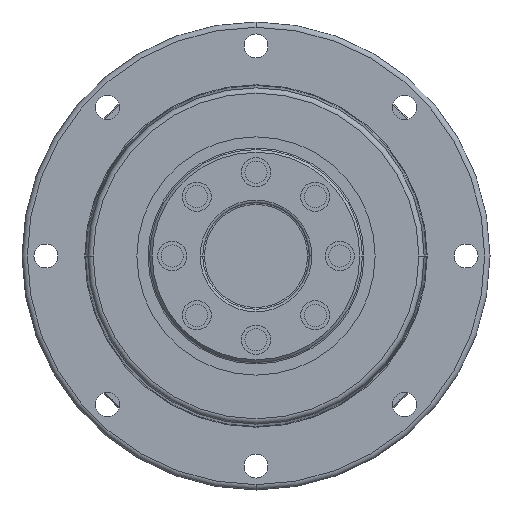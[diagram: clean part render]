
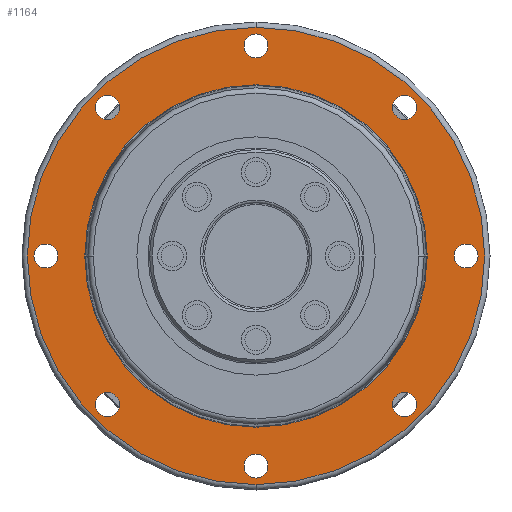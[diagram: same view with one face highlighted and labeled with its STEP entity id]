
A CAD part, left-side view. The second image highlights one B-rep face of the part: STEP entity #1164.
In plain terms, the highlighted planar face has unit normal (-1, 0, 0).
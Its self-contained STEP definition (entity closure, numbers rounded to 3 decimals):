
#248=CARTESIAN_POINT('',(15.5,39.5,0.));
#249=DIRECTION('',(-1.,0.,0.));
#250=DIRECTION('',(0.,0.,1.));
#251=AXIS2_PLACEMENT_3D('',#248,#249,#250);
#253=CARTESIAN_POINT('',(15.5,39.5,0.));
#254=DIRECTION('',(-1.,0.,0.));
#255=DIRECTION('',(0.,0.,-1.));
#256=AXIS2_PLACEMENT_3D('',#253,#254,#255);
#258=CARTESIAN_POINT('',(15.5,27.931,27.931));
#259=DIRECTION('',(-1.,0.,0.));
#260=DIRECTION('',(0.,-0.707,0.707));
#261=AXIS2_PLACEMENT_3D('',#258,#259,#260);
#263=CARTESIAN_POINT('',(15.5,27.931,27.931));
#264=DIRECTION('',(-1.,0.,0.));
#265=DIRECTION('',(0.,0.707,-0.707));
#266=AXIS2_PLACEMENT_3D('',#263,#264,#265);
#268=CARTESIAN_POINT('',(15.5,0.,39.5));
#269=DIRECTION('',(-1.,0.,0.));
#270=DIRECTION('',(0.,-1.,0.));
#271=AXIS2_PLACEMENT_3D('',#268,#269,#270);
#273=CARTESIAN_POINT('',(15.5,0.,39.5));
#274=DIRECTION('',(-1.,0.,0.));
#275=DIRECTION('',(0.,1.,0.));
#276=AXIS2_PLACEMENT_3D('',#273,#274,#275);
#278=CARTESIAN_POINT('',(15.5,-27.931,27.931));
#279=DIRECTION('',(-1.,0.,0.));
#280=DIRECTION('',(0.,-0.707,-0.707));
#281=AXIS2_PLACEMENT_3D('',#278,#279,#280);
#283=CARTESIAN_POINT('',(15.5,-27.931,27.931));
#284=DIRECTION('',(-1.,0.,0.));
#285=DIRECTION('',(0.,0.707,0.707));
#286=AXIS2_PLACEMENT_3D('',#283,#284,#285);
#288=CARTESIAN_POINT('',(15.5,-39.5,0.));
#289=DIRECTION('',(-1.,0.,0.));
#290=DIRECTION('',(0.,0.,-1.));
#291=AXIS2_PLACEMENT_3D('',#288,#289,#290);
#293=CARTESIAN_POINT('',(15.5,-39.5,0.));
#294=DIRECTION('',(-1.,0.,0.));
#295=DIRECTION('',(0.,0.,1.));
#296=AXIS2_PLACEMENT_3D('',#293,#294,#295);
#298=CARTESIAN_POINT('',(15.5,-27.931,-27.931));
#299=DIRECTION('',(-1.,0.,0.));
#300=DIRECTION('',(0.,0.707,-0.707));
#301=AXIS2_PLACEMENT_3D('',#298,#299,#300);
#303=CARTESIAN_POINT('',(15.5,-27.931,-27.931));
#304=DIRECTION('',(-1.,0.,0.));
#305=DIRECTION('',(0.,-0.707,0.707));
#306=AXIS2_PLACEMENT_3D('',#303,#304,#305);
#308=CARTESIAN_POINT('',(15.5,0.,-39.5));
#309=DIRECTION('',(-1.,0.,0.));
#310=DIRECTION('',(0.,1.,0.));
#311=AXIS2_PLACEMENT_3D('',#308,#309,#310);
#313=CARTESIAN_POINT('',(15.5,0.,-39.5));
#314=DIRECTION('',(-1.,0.,0.));
#315=DIRECTION('',(0.,-1.,0.));
#316=AXIS2_PLACEMENT_3D('',#313,#314,#315);
#318=CARTESIAN_POINT('',(15.5,27.931,-27.931));
#319=DIRECTION('',(-1.,0.,0.));
#320=DIRECTION('',(0.,0.707,0.707));
#321=AXIS2_PLACEMENT_3D('',#318,#319,#320);
#323=CARTESIAN_POINT('',(15.5,27.931,-27.931));
#324=DIRECTION('',(-1.,0.,0.));
#325=DIRECTION('',(0.,-0.707,-0.707));
#326=AXIS2_PLACEMENT_3D('',#323,#324,#325);
#328=CARTESIAN_POINT('',(15.5,0.,0.));
#329=DIRECTION('',(-1.,0.,0.));
#330=DIRECTION('',(0.,1.,0.));
#331=AXIS2_PLACEMENT_3D('',#328,#329,#330);
#333=CARTESIAN_POINT('',(15.5,0.,0.));
#334=DIRECTION('',(-1.,0.,0.));
#335=DIRECTION('',(0.,-1.,0.));
#336=AXIS2_PLACEMENT_3D('',#333,#334,#335);
#338=CARTESIAN_POINT('',(15.5,0.,0.));
#339=DIRECTION('',(-1.,0.,0.));
#340=DIRECTION('',(0.,0.,-1.));
#341=AXIS2_PLACEMENT_3D('',#338,#339,#340);
#343=CARTESIAN_POINT('',(15.5,0.,0.));
#344=DIRECTION('',(-1.,0.,0.));
#345=DIRECTION('',(0.,0.,1.));
#346=AXIS2_PLACEMENT_3D('',#343,#344,#345);
#684=CARTESIAN_POINT('',(15.5,39.5,2.25));
#685=CARTESIAN_POINT('',(15.5,39.5,-2.25));
#686=VERTEX_POINT('',#684);
#687=VERTEX_POINT('',#685);
#692=CARTESIAN_POINT('',(15.5,26.34,29.522));
#693=CARTESIAN_POINT('',(15.5,29.522,26.34));
#694=VERTEX_POINT('',#692);
#695=VERTEX_POINT('',#693);
#700=CARTESIAN_POINT('',(15.5,-2.25,39.5));
#701=CARTESIAN_POINT('',(15.5,2.25,39.5));
#702=VERTEX_POINT('',#700);
#703=VERTEX_POINT('',#701);
#708=CARTESIAN_POINT('',(15.5,-29.522,26.34));
#709=CARTESIAN_POINT('',(15.5,-26.34,29.522));
#710=VERTEX_POINT('',#708);
#711=VERTEX_POINT('',#709);
#716=CARTESIAN_POINT('',(15.5,-39.5,-2.25));
#717=CARTESIAN_POINT('',(15.5,-39.5,2.25));
#718=VERTEX_POINT('',#716);
#719=VERTEX_POINT('',#717);
#724=CARTESIAN_POINT('',(15.5,-26.34,-29.522));
#725=CARTESIAN_POINT('',(15.5,-29.522,-26.34));
#726=VERTEX_POINT('',#724);
#727=VERTEX_POINT('',#725);
#732=CARTESIAN_POINT('',(15.5,2.25,-39.5));
#733=CARTESIAN_POINT('',(15.5,-2.25,-39.5));
#734=VERTEX_POINT('',#732);
#735=VERTEX_POINT('',#733);
#740=CARTESIAN_POINT('',(15.5,29.522,-26.34));
#741=CARTESIAN_POINT('',(15.5,26.34,-29.522));
#742=VERTEX_POINT('',#740);
#743=VERTEX_POINT('',#741);
#764=CARTESIAN_POINT('',(15.5,32.2,0.));
#765=CARTESIAN_POINT('',(15.5,-32.2,0.));
#766=VERTEX_POINT('',#764);
#767=VERTEX_POINT('',#765);
#824=CARTESIAN_POINT('',(15.5,0.,-43.));
#825=CARTESIAN_POINT('',(15.5,0.,43.));
#826=VERTEX_POINT('',#824);
#827=VERTEX_POINT('',#825);
#1100=CARTESIAN_POINT('',(15.5,0.,0.));
#1101=DIRECTION('',(-1.,0.,0.));
#1102=DIRECTION('',(0.,0.,1.));
#1103=AXIS2_PLACEMENT_3D('',#1100,#1101,#1102);
#1104=PLANE('',#1103);
#1106=ORIENTED_EDGE('',*,*,#1105,.F.);
#1108=ORIENTED_EDGE('',*,*,#1107,.F.);
#1109=EDGE_LOOP('',(#1106,#1108));
#1110=FACE_OUTER_BOUND('',#1109,.F.);
#1111=ORIENTED_EDGE('',*,*,#1090,.T.);
#1113=ORIENTED_EDGE('',*,*,#1112,.T.);
#1114=EDGE_LOOP('',(#1111,#1113));
#1115=FACE_BOUND('',#1114,.F.);
#1117=ORIENTED_EDGE('',*,*,#1116,.T.);
#1119=ORIENTED_EDGE('',*,*,#1118,.T.);
#1120=EDGE_LOOP('',(#1117,#1119));
#1121=FACE_BOUND('',#1120,.F.);
#1123=ORIENTED_EDGE('',*,*,#1122,.T.);
#1125=ORIENTED_EDGE('',*,*,#1124,.T.);
#1126=EDGE_LOOP('',(#1123,#1125));
#1127=FACE_BOUND('',#1126,.F.);
#1129=ORIENTED_EDGE('',*,*,#1128,.T.);
#1131=ORIENTED_EDGE('',*,*,#1130,.T.);
#1132=EDGE_LOOP('',(#1129,#1131));
#1133=FACE_BOUND('',#1132,.F.);
#1135=ORIENTED_EDGE('',*,*,#1134,.T.);
#1137=ORIENTED_EDGE('',*,*,#1136,.T.);
#1138=EDGE_LOOP('',(#1135,#1137));
#1139=FACE_BOUND('',#1138,.F.);
#1141=ORIENTED_EDGE('',*,*,#1140,.T.);
#1143=ORIENTED_EDGE('',*,*,#1142,.T.);
#1144=EDGE_LOOP('',(#1141,#1143));
#1145=FACE_BOUND('',#1144,.F.);
#1147=ORIENTED_EDGE('',*,*,#1146,.T.);
#1149=ORIENTED_EDGE('',*,*,#1148,.T.);
#1150=EDGE_LOOP('',(#1147,#1149));
#1151=FACE_BOUND('',#1150,.F.);
#1153=ORIENTED_EDGE('',*,*,#1152,.T.);
#1155=ORIENTED_EDGE('',*,*,#1154,.T.);
#1156=EDGE_LOOP('',(#1153,#1155));
#1157=FACE_BOUND('',#1156,.F.);
#1159=ORIENTED_EDGE('',*,*,#1158,.T.);
#1161=ORIENTED_EDGE('',*,*,#1160,.T.);
#1162=EDGE_LOOP('',(#1159,#1161));
#1163=FACE_BOUND('',#1162,.F.);
#1164=ADVANCED_FACE('',(#1110,#1115,#1121,#1127,#1133,#1139,#1145,#1151,#1157,
#1163),#1104,.T.);
#252=CIRCLE('',#251,2.25);
#257=CIRCLE('',#256,2.25);
#262=CIRCLE('',#261,2.25);
#267=CIRCLE('',#266,2.25);
#272=CIRCLE('',#271,2.25);
#277=CIRCLE('',#276,2.25);
#282=CIRCLE('',#281,2.25);
#287=CIRCLE('',#286,2.25);
#292=CIRCLE('',#291,2.25);
#297=CIRCLE('',#296,2.25);
#302=CIRCLE('',#301,2.25);
#307=CIRCLE('',#306,2.25);
#312=CIRCLE('',#311,2.25);
#317=CIRCLE('',#316,2.25);
#322=CIRCLE('',#321,2.25);
#327=CIRCLE('',#326,2.25);
#332=CIRCLE('',#331,32.2);
#337=CIRCLE('',#336,32.2);
#342=CIRCLE('',#341,43.);
#347=CIRCLE('',#346,43.);
#1090=EDGE_CURVE('',#686,#687,#252,.T.);
#1105=EDGE_CURVE('',#826,#827,#342,.T.);
#1107=EDGE_CURVE('',#827,#826,#347,.T.);
#1112=EDGE_CURVE('',#687,#686,#257,.T.);
#1116=EDGE_CURVE('',#694,#695,#262,.T.);
#1118=EDGE_CURVE('',#695,#694,#267,.T.);
#1122=EDGE_CURVE('',#702,#703,#272,.T.);
#1124=EDGE_CURVE('',#703,#702,#277,.T.);
#1128=EDGE_CURVE('',#710,#711,#282,.T.);
#1130=EDGE_CURVE('',#711,#710,#287,.T.);
#1134=EDGE_CURVE('',#718,#719,#292,.T.);
#1136=EDGE_CURVE('',#719,#718,#297,.T.);
#1140=EDGE_CURVE('',#726,#727,#302,.T.);
#1142=EDGE_CURVE('',#727,#726,#307,.T.);
#1146=EDGE_CURVE('',#734,#735,#312,.T.);
#1148=EDGE_CURVE('',#735,#734,#317,.T.);
#1152=EDGE_CURVE('',#742,#743,#322,.T.);
#1154=EDGE_CURVE('',#743,#742,#327,.T.);
#1158=EDGE_CURVE('',#766,#767,#332,.T.);
#1160=EDGE_CURVE('',#767,#766,#337,.T.);
